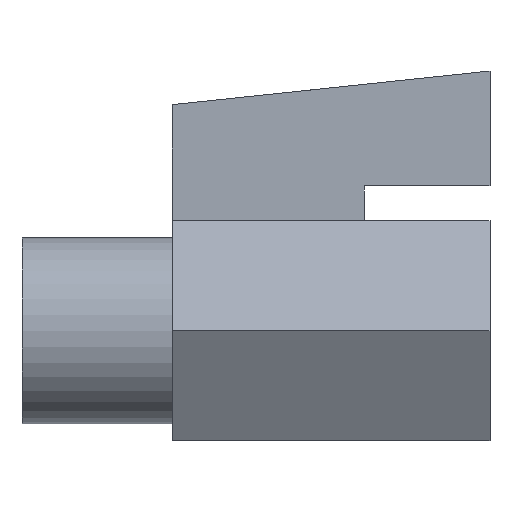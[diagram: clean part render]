
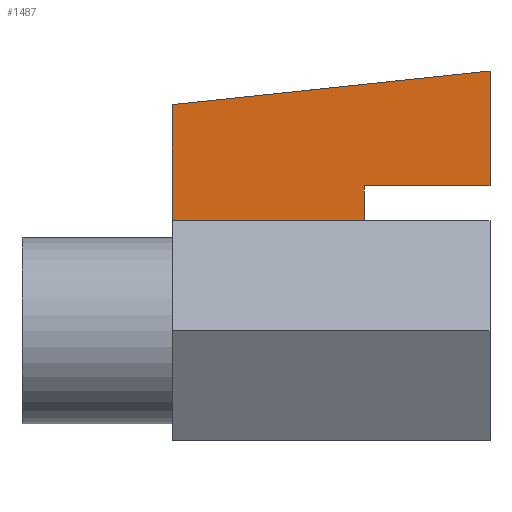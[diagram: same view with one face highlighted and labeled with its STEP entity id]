
A CAD part, front view. The second image highlights one B-rep face of the part: STEP entity #1487.
In plain terms, the highlighted planar face has unit normal (0, -1, 0).
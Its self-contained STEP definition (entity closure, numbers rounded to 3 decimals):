
#302 = EDGE_CURVE('',#303,#305,#307,.T.);
#303 = VERTEX_POINT('',#304);
#304 = CARTESIAN_POINT('',(-0.562,-0.16,0.492));
#305 = VERTEX_POINT('',#306);
#306 = CARTESIAN_POINT('',(-1.418,-0.16,0.492));
#307 = SURFACE_CURVE('',#308,(#312,#324),.PCURVE_S1.);
#308 = LINE('',#309,#310);
#309 = CARTESIAN_POINT('',(-0.562,-0.16,0.492));
#310 = VECTOR('',#311,1.);
#311 = DIRECTION('',(-1.,0.,0.));
#312 = PCURVE('',#313,#318);
#313 = PLANE('',#314);
#314 = AXIS2_PLACEMENT_3D('',#315,#316,#317);
#315 = CARTESIAN_POINT('',(0.,0.,0.492));
#316 = DIRECTION('',(0.,0.,1.));
#317 = DIRECTION('',(0.,1.,0.));
#318 = DEFINITIONAL_REPRESENTATION('',(#319),#323);
#319 = LINE('',#320,#321);
#320 = CARTESIAN_POINT('',(-0.16,0.562));
#321 = VECTOR('',#322,1.);
#322 = DIRECTION('',(0.,1.));
#323 = ( GEOMETRIC_REPRESENTATION_CONTEXT(2) 
PARAMETRIC_REPRESENTATION_CONTEXT() REPRESENTATION_CONTEXT('2D SPACE',''
  ) );
#324 = PCURVE('',#325,#330);
#325 = PLANE('',#326);
#326 = AXIS2_PLACEMENT_3D('',#327,#328,#329);
#327 = CARTESIAN_POINT('',(-0.704,-0.16,0.812));
#328 = DIRECTION('',(0.,1.,0.));
#329 = DIRECTION('',(0.,-0.,1.));
#330 = DEFINITIONAL_REPRESENTATION('',(#331),#335);
#331 = LINE('',#332,#333);
#332 = CARTESIAN_POINT('',(-0.32,0.142));
#333 = VECTOR('',#334,1.);
#334 = DIRECTION('',(0.,-1.));
#335 = ( GEOMETRIC_REPRESENTATION_CONTEXT(2) 
PARAMETRIC_REPRESENTATION_CONTEXT() REPRESENTATION_CONTEXT('2D SPACE',''
  ) );
#353 = PLANE('',#354);
#354 = AXIS2_PLACEMENT_3D('',#355,#356,#357);
#355 = CARTESIAN_POINT('',(-1.418,0.16,0.751));
#356 = DIRECTION('',(-1.,0.,0.));
#357 = DIRECTION('',(0.,0.,-1.));
#509 = PLANE('',#510);
#510 = AXIS2_PLACEMENT_3D('',#511,#512,#513);
#511 = CARTESIAN_POINT('',(-0.562,0.16,0.57));
#512 = DIRECTION('',(1.,0.,0.));
#513 = DIRECTION('',(0.,0.,1.));
#1016 = PLANE('',#1017);
#1017 = AXIS2_PLACEMENT_3D('',#1018,#1019,#1020);
#1018 = CARTESIAN_POINT('',(-0.709,0.16,1.085));
#1019 = DIRECTION('',(-0.105,0.,0.994));
#1020 = DIRECTION('',(-0.994,0.,-0.105));
#1137 = EDGE_CURVE('',#1138,#1140,#1142,.T.);
#1138 = VERTEX_POINT('',#1139);
#1139 = CARTESIAN_POINT('',(0.,-0.16,0.647));
#1140 = VERTEX_POINT('',#1141);
#1141 = CARTESIAN_POINT('',(-0.562,-0.16,0.647));
#1142 = SURFACE_CURVE('',#1143,(#1147,#1159),.PCURVE_S1.);
#1143 = LINE('',#1144,#1145);
#1144 = CARTESIAN_POINT('',(0.,-0.16,0.647));
#1145 = VECTOR('',#1146,1.);
#1146 = DIRECTION('',(-1.,0.,0.));
#1147 = PCURVE('',#1148,#1153);
#1148 = PLANE('',#1149);
#1149 = AXIS2_PLACEMENT_3D('',#1150,#1151,#1152);
#1150 = CARTESIAN_POINT('',(-0.281,0.16,0.647));
#1151 = DIRECTION('',(0.,0.,-1.));
#1152 = DIRECTION('',(1.,0.,0.));
#1153 = DEFINITIONAL_REPRESENTATION('',(#1154),#1158);
#1154 = LINE('',#1155,#1156);
#1155 = CARTESIAN_POINT('',(0.281,0.32));
#1156 = VECTOR('',#1157,1.);
#1157 = DIRECTION('',(-1.,0.));
#1158 = ( GEOMETRIC_REPRESENTATION_CONTEXT(2) 
PARAMETRIC_REPRESENTATION_CONTEXT() REPRESENTATION_CONTEXT('2D SPACE',''
  ) );
#1159 = PCURVE('',#325,#1160);
#1160 = DEFINITIONAL_REPRESENTATION('',(#1161),#1165);
#1161 = LINE('',#1162,#1163);
#1162 = CARTESIAN_POINT('',(-0.165,0.704));
#1163 = VECTOR('',#1164,1.);
#1164 = DIRECTION('',(0.,-1.));
#1165 = ( GEOMETRIC_REPRESENTATION_CONTEXT(2) 
PARAMETRIC_REPRESENTATION_CONTEXT() REPRESENTATION_CONTEXT('2D SPACE',''
  ) );
#1227 = PLANE('',#1228);
#1228 = AXIS2_PLACEMENT_3D('',#1229,#1230,#1231);
#1229 = CARTESIAN_POINT('',(0.,0.16,0.904));
#1230 = DIRECTION('',(1.,0.,0.));
#1231 = DIRECTION('',(0.,0.,1.));
#1242 = EDGE_CURVE('',#1140,#303,#1243,.T.);
#1243 = SURFACE_CURVE('',#1244,(#1248,#1255),.PCURVE_S1.);
#1244 = LINE('',#1245,#1246);
#1245 = CARTESIAN_POINT('',(-0.562,-0.16,0.647));
#1246 = VECTOR('',#1247,1.);
#1247 = DIRECTION('',(0.,0.,-1.));
#1248 = PCURVE('',#509,#1249);
#1249 = DEFINITIONAL_REPRESENTATION('',(#1250),#1254);
#1250 = LINE('',#1251,#1252);
#1251 = CARTESIAN_POINT('',(0.078,0.32));
#1252 = VECTOR('',#1253,1.);
#1253 = DIRECTION('',(-1.,0.));
#1254 = ( GEOMETRIC_REPRESENTATION_CONTEXT(2) 
PARAMETRIC_REPRESENTATION_CONTEXT() REPRESENTATION_CONTEXT('2D SPACE',''
  ) );
#1255 = PCURVE('',#325,#1256);
#1256 = DEFINITIONAL_REPRESENTATION('',(#1257),#1261);
#1257 = LINE('',#1258,#1259);
#1258 = CARTESIAN_POINT('',(-0.165,0.142));
#1259 = VECTOR('',#1260,1.);
#1260 = DIRECTION('',(-1.,0.));
#1261 = ( GEOMETRIC_REPRESENTATION_CONTEXT(2) 
PARAMETRIC_REPRESENTATION_CONTEXT() REPRESENTATION_CONTEXT('2D SPACE',''
  ) );
#1292 = EDGE_CURVE('',#305,#1293,#1295,.T.);
#1293 = VERTEX_POINT('',#1294);
#1294 = CARTESIAN_POINT('',(-1.418,-0.16,1.01));
#1295 = SURFACE_CURVE('',#1296,(#1300,#1307),.PCURVE_S1.);
#1296 = LINE('',#1297,#1298);
#1297 = CARTESIAN_POINT('',(-1.418,-0.16,0.492));
#1298 = VECTOR('',#1299,1.);
#1299 = DIRECTION('',(0.,0.,1.));
#1300 = PCURVE('',#353,#1301);
#1301 = DEFINITIONAL_REPRESENTATION('',(#1302),#1306);
#1302 = LINE('',#1303,#1304);
#1303 = CARTESIAN_POINT('',(0.259,0.32));
#1304 = VECTOR('',#1305,1.);
#1305 = DIRECTION('',(-1.,-0.));
#1306 = ( GEOMETRIC_REPRESENTATION_CONTEXT(2) 
PARAMETRIC_REPRESENTATION_CONTEXT() REPRESENTATION_CONTEXT('2D SPACE',''
  ) );
#1307 = PCURVE('',#325,#1308);
#1308 = DEFINITIONAL_REPRESENTATION('',(#1309),#1313);
#1309 = LINE('',#1310,#1311);
#1310 = CARTESIAN_POINT('',(-0.32,-0.714));
#1311 = VECTOR('',#1312,1.);
#1312 = DIRECTION('',(1.,0.));
#1313 = ( GEOMETRIC_REPRESENTATION_CONTEXT(2) 
PARAMETRIC_REPRESENTATION_CONTEXT() REPRESENTATION_CONTEXT('2D SPACE',''
  ) );
#1373 = EDGE_CURVE('',#1293,#1374,#1376,.T.);
#1374 = VERTEX_POINT('',#1375);
#1375 = CARTESIAN_POINT('',(0.,-0.16,1.16));
#1376 = SURFACE_CURVE('',#1377,(#1381,#1388),.PCURVE_S1.);
#1377 = LINE('',#1378,#1379);
#1378 = CARTESIAN_POINT('',(-1.418,-0.16,1.01));
#1379 = VECTOR('',#1380,1.);
#1380 = DIRECTION('',(0.994,0.,0.105));
#1381 = PCURVE('',#1016,#1382);
#1382 = DEFINITIONAL_REPRESENTATION('',(#1383),#1387);
#1383 = LINE('',#1384,#1385);
#1384 = CARTESIAN_POINT('',(0.713,0.32));
#1385 = VECTOR('',#1386,1.);
#1386 = DIRECTION('',(-1.,0.));
#1387 = ( GEOMETRIC_REPRESENTATION_CONTEXT(2) 
PARAMETRIC_REPRESENTATION_CONTEXT() REPRESENTATION_CONTEXT('2D SPACE',''
  ) );
#1388 = PCURVE('',#325,#1389);
#1389 = DEFINITIONAL_REPRESENTATION('',(#1390),#1394);
#1390 = LINE('',#1391,#1392);
#1391 = CARTESIAN_POINT('',(0.198,-0.714));
#1392 = VECTOR('',#1393,1.);
#1393 = DIRECTION('',(0.105,0.994));
#1394 = ( GEOMETRIC_REPRESENTATION_CONTEXT(2) 
PARAMETRIC_REPRESENTATION_CONTEXT() REPRESENTATION_CONTEXT('2D SPACE',''
  ) );
#1444 = EDGE_CURVE('',#1374,#1138,#1445,.T.);
#1445 = SURFACE_CURVE('',#1446,(#1450,#1457),.PCURVE_S1.);
#1446 = LINE('',#1447,#1448);
#1447 = CARTESIAN_POINT('',(0.,-0.16,1.16));
#1448 = VECTOR('',#1449,1.);
#1449 = DIRECTION('',(0.,0.,-1.));
#1450 = PCURVE('',#1227,#1451);
#1451 = DEFINITIONAL_REPRESENTATION('',(#1452),#1456);
#1452 = LINE('',#1453,#1454);
#1453 = CARTESIAN_POINT('',(0.257,0.32));
#1454 = VECTOR('',#1455,1.);
#1455 = DIRECTION('',(-1.,0.));
#1456 = ( GEOMETRIC_REPRESENTATION_CONTEXT(2) 
PARAMETRIC_REPRESENTATION_CONTEXT() REPRESENTATION_CONTEXT('2D SPACE',''
  ) );
#1457 = PCURVE('',#325,#1458);
#1458 = DEFINITIONAL_REPRESENTATION('',(#1459),#1463);
#1459 = LINE('',#1460,#1461);
#1460 = CARTESIAN_POINT('',(0.348,0.704));
#1461 = VECTOR('',#1462,1.);
#1462 = DIRECTION('',(-1.,0.));
#1463 = ( GEOMETRIC_REPRESENTATION_CONTEXT(2) 
PARAMETRIC_REPRESENTATION_CONTEXT() REPRESENTATION_CONTEXT('2D SPACE',''
  ) );
#1487 = ADVANCED_FACE('',(#1488),#325,.F.);
#1488 = FACE_BOUND('',#1489,.T.);
#1489 = EDGE_LOOP('',(#1490,#1491,#1492,#1493,#1494,#1495));
#1490 = ORIENTED_EDGE('',*,*,#1137,.F.);
#1491 = ORIENTED_EDGE('',*,*,#1444,.F.);
#1492 = ORIENTED_EDGE('',*,*,#1373,.F.);
#1493 = ORIENTED_EDGE('',*,*,#1292,.F.);
#1494 = ORIENTED_EDGE('',*,*,#302,.F.);
#1495 = ORIENTED_EDGE('',*,*,#1242,.F.);
